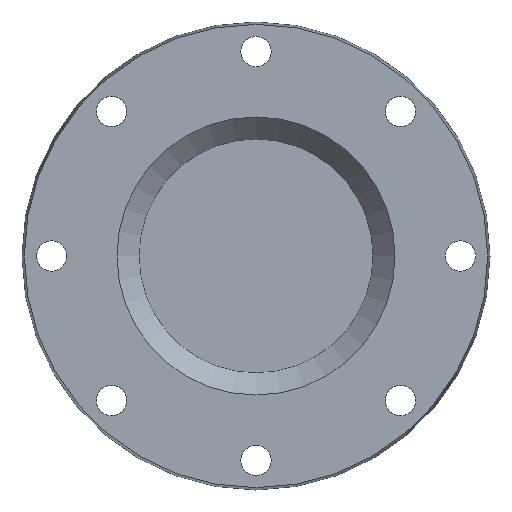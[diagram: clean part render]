
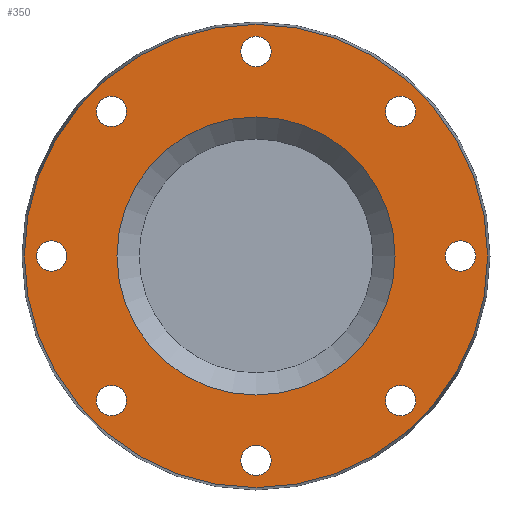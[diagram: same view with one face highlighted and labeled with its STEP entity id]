
A CAD part, left-side view. The second image highlights one B-rep face of the part: STEP entity #350.
In plain terms, the highlighted planar face has unit normal (-1, 0, 0).
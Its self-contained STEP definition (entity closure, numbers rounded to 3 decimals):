
#24=PLANE('',#407);
#55=FACE_BOUND('',#142,.T.);
#56=FACE_BOUND('',#143,.T.);
#57=FACE_BOUND('',#144,.T.);
#58=FACE_BOUND('',#145,.T.);
#59=FACE_BOUND('',#146,.T.);
#60=FACE_BOUND('',#147,.T.);
#61=FACE_BOUND('',#148,.T.);
#62=FACE_BOUND('',#149,.T.);
#63=FACE_BOUND('',#150,.T.);
#87=FACE_OUTER_BOUND('',#141,.T.);
#141=EDGE_LOOP('',(#301));
#142=EDGE_LOOP('',(#302));
#143=EDGE_LOOP('',(#303));
#144=EDGE_LOOP('',(#304));
#145=EDGE_LOOP('',(#305));
#146=EDGE_LOOP('',(#306));
#147=EDGE_LOOP('',(#307));
#148=EDGE_LOOP('',(#308));
#149=EDGE_LOOP('',(#309));
#150=EDGE_LOOP('',(#310));
#175=CIRCLE('',#389,11.);
#176=CIRCLE('',#391,11.);
#177=CIRCLE('',#393,11.);
#178=CIRCLE('',#395,11.);
#179=CIRCLE('',#397,11.);
#180=CIRCLE('',#399,11.);
#181=CIRCLE('',#401,11.);
#182=CIRCLE('',#403,11.);
#183=CIRCLE('',#406,168.3);
#184=CIRCLE('',#408,101.);
#207=VERTEX_POINT('',#584);
#208=VERTEX_POINT('',#587);
#209=VERTEX_POINT('',#590);
#210=VERTEX_POINT('',#593);
#211=VERTEX_POINT('',#596);
#212=VERTEX_POINT('',#599);
#213=VERTEX_POINT('',#602);
#214=VERTEX_POINT('',#605);
#215=VERTEX_POINT('',#609);
#216=VERTEX_POINT('',#612);
#239=EDGE_CURVE('',#207,#207,#175,.T.);
#240=EDGE_CURVE('',#208,#208,#176,.T.);
#241=EDGE_CURVE('',#209,#209,#177,.T.);
#242=EDGE_CURVE('',#210,#210,#178,.T.);
#243=EDGE_CURVE('',#211,#211,#179,.T.);
#244=EDGE_CURVE('',#212,#212,#180,.T.);
#245=EDGE_CURVE('',#213,#213,#181,.T.);
#246=EDGE_CURVE('',#214,#214,#182,.T.);
#247=EDGE_CURVE('',#215,#215,#183,.T.);
#248=EDGE_CURVE('',#216,#216,#184,.T.);
#301=ORIENTED_EDGE('',*,*,#247,.T.);
#302=ORIENTED_EDGE('',*,*,#239,.T.);
#303=ORIENTED_EDGE('',*,*,#240,.T.);
#304=ORIENTED_EDGE('',*,*,#241,.T.);
#305=ORIENTED_EDGE('',*,*,#242,.T.);
#306=ORIENTED_EDGE('',*,*,#243,.T.);
#307=ORIENTED_EDGE('',*,*,#244,.T.);
#308=ORIENTED_EDGE('',*,*,#245,.T.);
#309=ORIENTED_EDGE('',*,*,#246,.T.);
#310=ORIENTED_EDGE('',*,*,#248,.F.);
#350=ADVANCED_FACE('',(#87,#55,#56,#57,#58,#59,#60,#61,#62,#63),#24,.T.);
#389=AXIS2_PLACEMENT_3D('',#585,#482,#483);
#391=AXIS2_PLACEMENT_3D('',#588,#486,#487);
#393=AXIS2_PLACEMENT_3D('',#591,#490,#491);
#395=AXIS2_PLACEMENT_3D('',#594,#494,#495);
#397=AXIS2_PLACEMENT_3D('',#597,#498,#499);
#399=AXIS2_PLACEMENT_3D('',#600,#502,#503);
#401=AXIS2_PLACEMENT_3D('',#603,#506,#507);
#403=AXIS2_PLACEMENT_3D('',#606,#510,#511);
#406=AXIS2_PLACEMENT_3D('',#610,#516,#517);
#407=AXIS2_PLACEMENT_3D('',#611,#518,#519);
#408=AXIS2_PLACEMENT_3D('',#613,#520,#521);
#482=DIRECTION('center_axis',(1.,0.,0.));
#483=DIRECTION('ref_axis',(0.,-0.707,0.707));
#486=DIRECTION('center_axis',(1.,0.,0.));
#487=DIRECTION('ref_axis',(0.,-1.,0.));
#490=DIRECTION('center_axis',(1.,0.,0.));
#491=DIRECTION('ref_axis',(0.,-0.707,-0.707));
#494=DIRECTION('center_axis',(1.,0.,0.));
#495=DIRECTION('ref_axis',(0.,0.,-1.));
#498=DIRECTION('center_axis',(1.,0.,0.));
#499=DIRECTION('ref_axis',(0.,0.707,-0.707));
#502=DIRECTION('center_axis',(1.,0.,0.));
#503=DIRECTION('ref_axis',(0.,1.,0.));
#506=DIRECTION('center_axis',(1.,0.,0.));
#507=DIRECTION('ref_axis',(0.,0.707,0.707));
#510=DIRECTION('center_axis',(1.,0.,0.));
#511=DIRECTION('ref_axis',(0.,0.,1.));
#516=DIRECTION('center_axis',(-1.,0.,0.));
#517=DIRECTION('ref_axis',(0.,0.,1.));
#518=DIRECTION('center_axis',(-1.,0.,0.));
#519=DIRECTION('ref_axis',(0.,0.,1.));
#520=DIRECTION('center_axis',(-1.,0.,0.));
#521=DIRECTION('ref_axis',(0.,0.,1.));
#584=CARTESIAN_POINT('',(-16.,112.784,97.227));
#585=CARTESIAN_POINT('Origin',(-16.,105.005,105.005));
#587=CARTESIAN_POINT('',(-16.,11.,148.5));
#588=CARTESIAN_POINT('Origin',(-16.,0.,148.5));
#590=CARTESIAN_POINT('',(-16.,-97.227,112.784));
#591=CARTESIAN_POINT('Origin',(-16.,-105.005,105.005));
#593=CARTESIAN_POINT('',(-16.,-148.5,11.));
#594=CARTESIAN_POINT('Origin',(-16.,-148.5,0.));
#596=CARTESIAN_POINT('',(-16.,-112.784,-97.227));
#597=CARTESIAN_POINT('Origin',(-16.,-105.005,-105.005));
#599=CARTESIAN_POINT('',(-16.,-11.,-148.5));
#600=CARTESIAN_POINT('Origin',(-16.,0.,-148.5));
#602=CARTESIAN_POINT('',(-16.,97.227,-112.784));
#603=CARTESIAN_POINT('Origin',(-16.,105.005,-105.005));
#605=CARTESIAN_POINT('',(-16.,148.5,-11.));
#606=CARTESIAN_POINT('Origin',(-16.,148.5,0.));
#609=CARTESIAN_POINT('',(-16.,-168.3,0.));
#610=CARTESIAN_POINT('Origin',(-16.,0.,0.));
#611=CARTESIAN_POINT('Origin',(-16.,-101.,0.));
#612=CARTESIAN_POINT('',(-16.,-101.,0.));
#613=CARTESIAN_POINT('Origin',(-16.,0.,0.));
